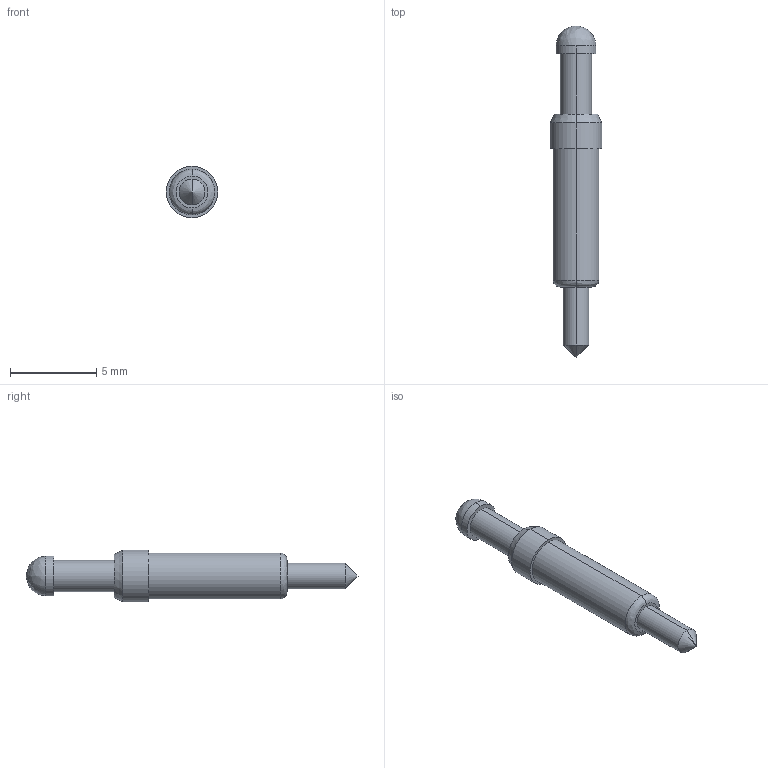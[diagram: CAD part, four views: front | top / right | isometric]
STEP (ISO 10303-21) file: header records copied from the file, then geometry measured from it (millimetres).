
FILE_DESCRIPTION (( 'STEP AP214' ), '1' );
FILE_NAME ('PC8DST.STEP', '2021-07-13T11:04:11', ( '' ), ( '' ), 'SwSTEP 2.0', 'SolidWorks 2021', '' );
FILE_SCHEMA (( 'AUTOMOTIVE_DESIGN' ));
Length unit declared in the file: millimetre
Products named in the file (1): PC8DST
Bounding box: 3 x 19.2 x 3 mm (x, y, z)
Volume: 77.8 mm3; surface area: 143.1 mm2
Topology: 1 solids, 1 shells, 21 faces, 46 edges, 27 vertices
Faces by surface type: cylinder 10, cone 4, plane 4, bspline 3
Entity records: 625 total; most frequent: CARTESIAN_POINT 142, DIRECTION 104, ORIENTED_EDGE 84, AXIS2_PLACEMENT_3D 45, EDGE_CURVE 42, VERTEX_POINT 27, CIRCLE 26, EDGE_LOOP 25
